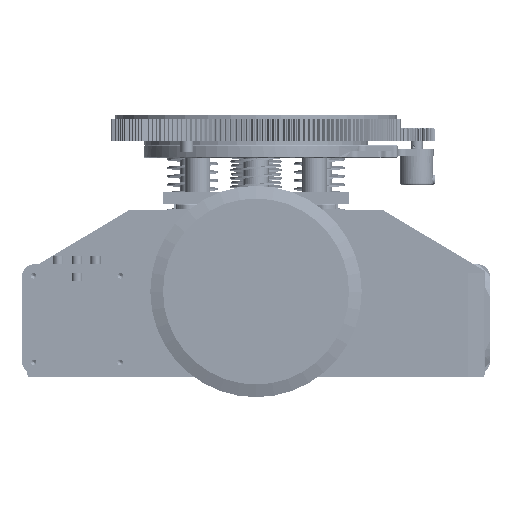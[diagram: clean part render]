
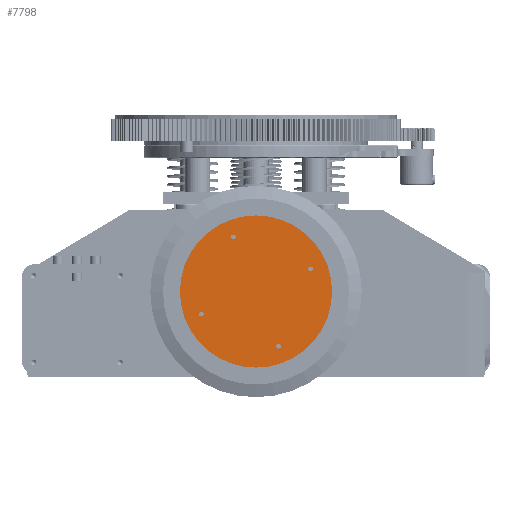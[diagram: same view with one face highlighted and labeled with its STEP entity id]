
A CAD part, left-side view. The second image highlights one B-rep face of the part: STEP entity #7798.
In plain terms, the highlighted planar face has unit normal (-1, 0, 0).
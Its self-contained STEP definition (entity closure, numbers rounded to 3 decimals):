
#2062=PLANE('',#58271);
#7798=ADVANCED_FACE('',(#12065,#12066,#12067,#12068,#12069),#2062,.F.);
#12065=FACE_BOUND('',#15612,.T.);
#12066=FACE_BOUND('',#15613,.T.);
#12067=FACE_BOUND('',#15614,.T.);
#12068=FACE_BOUND('',#15615,.T.);
#12069=FACE_BOUND('',#15616,.T.);
#15612=EDGE_LOOP('',(#22564));
#15613=EDGE_LOOP('',(#22565));
#15614=EDGE_LOOP('',(#22566));
#15615=EDGE_LOOP('',(#22567));
#15616=EDGE_LOOP('',(#22568));
#22564=ORIENTED_EDGE('',*,*,#40886,.F.);
#22565=ORIENTED_EDGE('',*,*,#40887,.F.);
#22566=ORIENTED_EDGE('',*,*,#40888,.F.);
#22567=ORIENTED_EDGE('',*,*,#40889,.F.);
#22568=ORIENTED_EDGE('',*,*,#40890,.T.);
#35143=VERTEX_POINT('',#138184);
#35144=VERTEX_POINT('',#138186);
#35145=VERTEX_POINT('',#138188);
#35146=VERTEX_POINT('',#138190);
#35147=VERTEX_POINT('',#138192);
#40886=EDGE_CURVE('',#35143,#35143,#47434,.T.);
#40887=EDGE_CURVE('',#35144,#35144,#47435,.T.);
#40888=EDGE_CURVE('',#35145,#35145,#47436,.T.);
#40889=EDGE_CURVE('',#35146,#35146,#47437,.T.);
#40890=EDGE_CURVE('',#35147,#35147,#47438,.T.);
#47434=CIRCLE('',#58266,2.75);
#47435=CIRCLE('',#58267,2.75);
#47436=CIRCLE('',#58268,2.75);
#47437=CIRCLE('',#58269,2.75);
#47438=CIRCLE('',#58270,90.);
#58266=AXIS2_PLACEMENT_3D('',#138183,#68788,#68789);
#58267=AXIS2_PLACEMENT_3D('',#138185,#68790,#68791);
#58268=AXIS2_PLACEMENT_3D('',#138187,#68792,#68793);
#58269=AXIS2_PLACEMENT_3D('',#138189,#68794,#68795);
#58270=AXIS2_PLACEMENT_3D('',#138191,#68796,#68797);
#58271=AXIS2_PLACEMENT_3D('',#138193,#68798,#68799);
#68788=DIRECTION('',(-1.,0.,0.));
#68789=DIRECTION('',(0.,1.,0.));
#68790=DIRECTION('',(-1.,0.,0.));
#68791=DIRECTION('',(0.,1.,0.));
#68792=DIRECTION('',(-1.,0.,0.));
#68793=DIRECTION('',(0.,1.,0.));
#68794=DIRECTION('',(-1.,0.,0.));
#68795=DIRECTION('',(0.,1.,0.));
#68796=DIRECTION('',(-1.,0.,0.));
#68797=DIRECTION('',(0.,1.,0.));
#68798=DIRECTION('',(1.,0.,0.));
#68799=DIRECTION('',(0.,0.,-1.));
#138183=CARTESIAN_POINT('',(-307.,-64.672,-182.212));
#138184=CARTESIAN_POINT('',(-307.,-61.922,-182.212));
#138185=CARTESIAN_POINT('',(-307.,-26.788,-273.672));
#138186=CARTESIAN_POINT('',(-307.,-24.038,-273.672));
#138187=CARTESIAN_POINT('',(-307.,26.788,-144.328));
#138188=CARTESIAN_POINT('',(-307.,29.538,-144.328));
#138189=CARTESIAN_POINT('',(-307.,64.672,-235.788));
#138190=CARTESIAN_POINT('',(-307.,67.422,-235.788));
#138191=CARTESIAN_POINT('',(-307.,0.,-209.));
#138192=CARTESIAN_POINT('',(-307.,90.,-209.));
#138193=CARTESIAN_POINT('',(-307.,32.336,-222.394));
